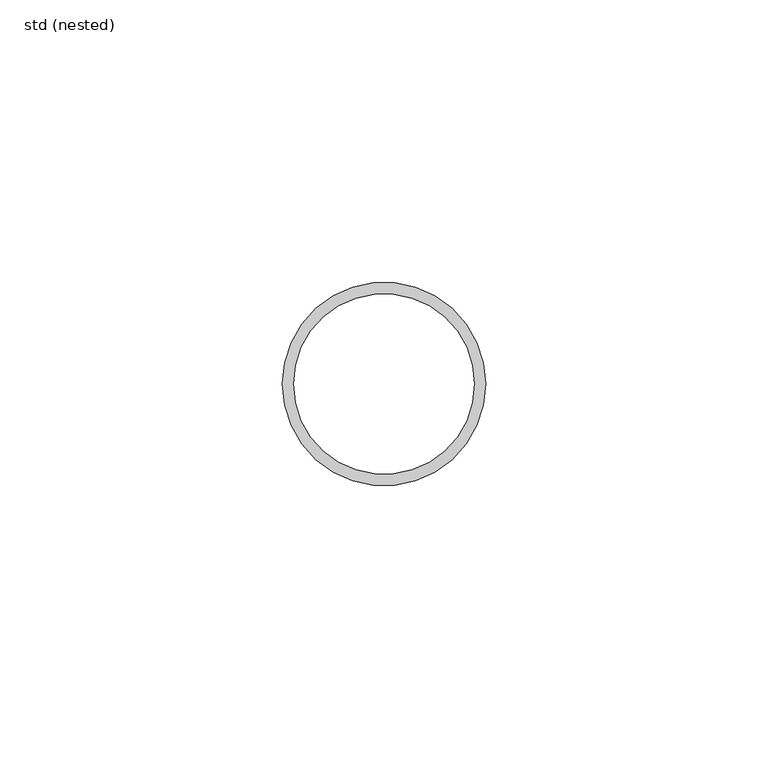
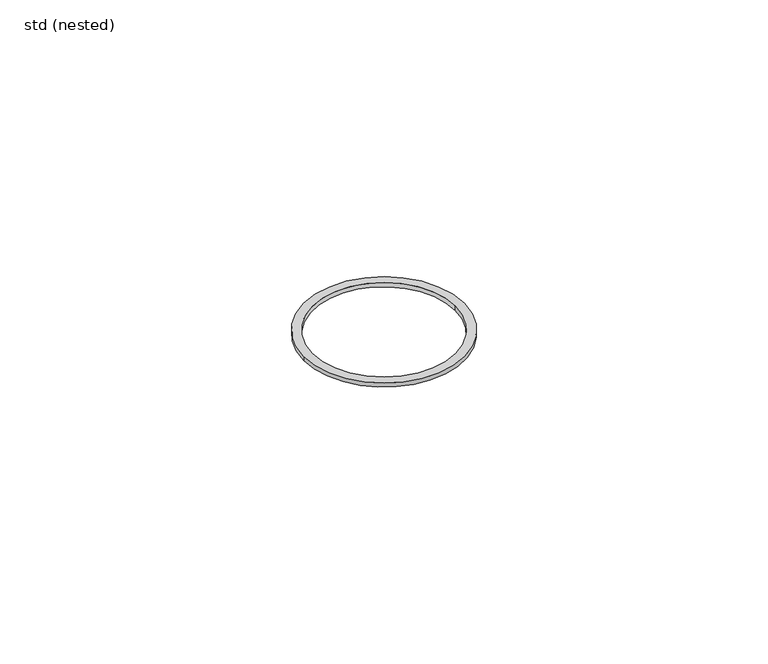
"""IFC4 building model written with IfcOpenShell, lengths in millimetres: pipe fitting geometry, ZZZ_do not use_PIF_GEN_WPB_GM-X (compound) pipe seal_ACO : std (nested)."""

from ifc_helpers import new_model, si_unit, point, origin, origin_with_axes, origin_2d, place, context, project, spatial, circle_curve, trimmed, segment, composite_curve, outline, extrude, source, transform, mapped, element, save


def std_nested_a67ed7a0(model_context):
    return source(origin(), model_context, "Body", "SweptSolid", [
        extrude(outline(composite_curve([segment(trimmed(circle_curve(origin_2d(), 18.0), [point((18.0, 0.0))], [point((-18.0, 0.0))], False, "CARTESIAN"), True, "CONTINUOUS"), segment(trimmed(circle_curve(origin_2d(), 18.0), [point((-18.0, 0.0))], [point((18.0, 0.0))], False, "CARTESIAN"), True, "CONTINUOUS")], self_intersect=False), holes=[composite_curve([segment(trimmed(circle_curve(origin_2d(), 16.0), [point((16.0, 0.0))], [point((-16.0, 0.0))], True, "CARTESIAN"), True, "CONTINUOUS"), segment(trimmed(circle_curve(origin_2d(), 16.0), [point((-16.0, 0.0))], [point((16.0, 0.0))], True, "CARTESIAN"), True, "CONTINUOUS")], self_intersect=False)]), origin_with_axes(), (0.0, 0.0, 1.0), 1.0),
    ])


if __name__ == "__main__":
    model = new_model("IFC4")
    model_context = context("Model", 3, world=origin())
    ifc_project = project(units=[si_unit("LENGTHUNIT", "METRE", prefix="MILLI")], contexts=[model_context])
    site = spatial("IfcSite", under=ifc_project)
    building = spatial("IfcBuilding", under=site)
    placement = place(None, origin())
    std_nested_shape = std_nested_a67ed7a0(model_context)
    element("IfcPipeFitting", 1, ObjectType="ZZZ_do not use_PIF_GEN_WPB_GM-X (compound) pipe seal_ACO : std (nested)", at=placement, inside=building, context=model_context, shape_type="MappedRepresentation", body=[
        mapped(std_nested_shape, transform((0.0, 0.0, 0.0), x_axis=(1.0, 0.0, 0.0), y_axis=(0.0, 1.0, 0.0), z_axis=(0.0, 0.0, 1.0))),
    ])
    save(model, "model.ifc")
